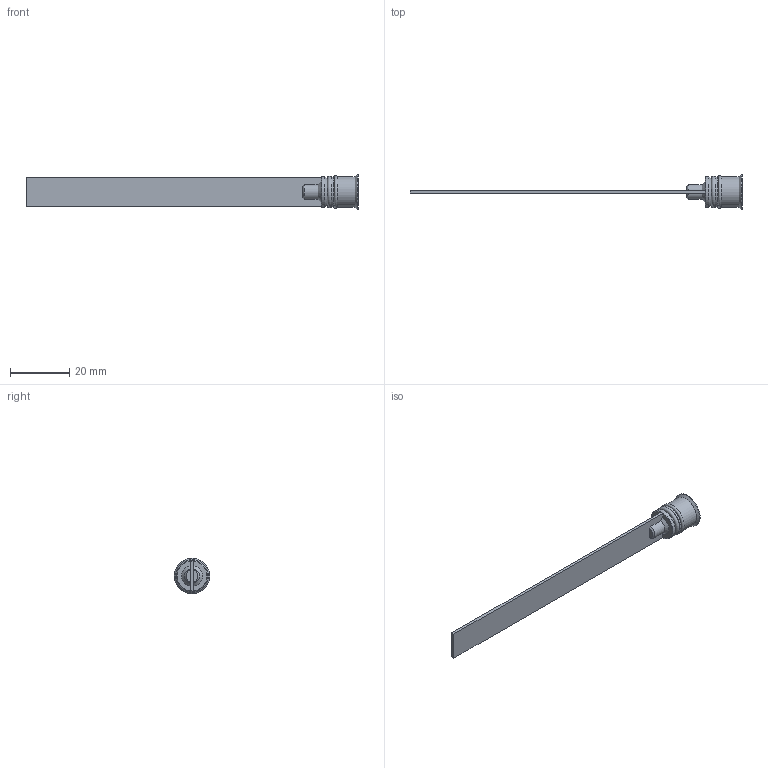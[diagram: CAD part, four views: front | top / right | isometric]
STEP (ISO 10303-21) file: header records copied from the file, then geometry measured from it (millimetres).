
FILE_DESCRIPTION( ( 'STEP AP214' ), '1' );
FILE_NAME( 'p:/temp/worker_238/temp/exporttempdir_3288_160_LSMcx/format_0/RL-10x100.stp', '2021-02-05T19:39:48', ( 'License CC BY-ND 4.0' ), ( 'CADENAS' ), ' ', 'PARTsolutions', ' ' );
FILE_SCHEMA( ( 'AUTOMOTIVE_DESIGN { 1 0 10303 214 1 1 1 1 }' ) );
Length unit declared in the file: millimetre
Products named in the file (1): _RL-10x100
Bounding box: 112.5 x 12 x 12 mm (x, y, z)
Volume: 2059.3 mm3; surface area: 3153.8 mm2
Topology: 1 solids, 1 shells, 48 faces, 116 edges, 75 vertices
Faces by surface type: plane 27, cone 10, cylinder 9, torus 2
Full cylindrical faces by diameter (mm): 6 x1, 10.5 x3, 12 x1
Entity records: 1758 total; most frequent: CARTESIAN_POINT 279, DIRECTION 216, ORIENTED_EDGE 208, EDGE_CURVE 104, AXIS2_PLACEMENT_3D 77, VERTEX_POINT 76, EDGE_LOOP 64, LINE 62
